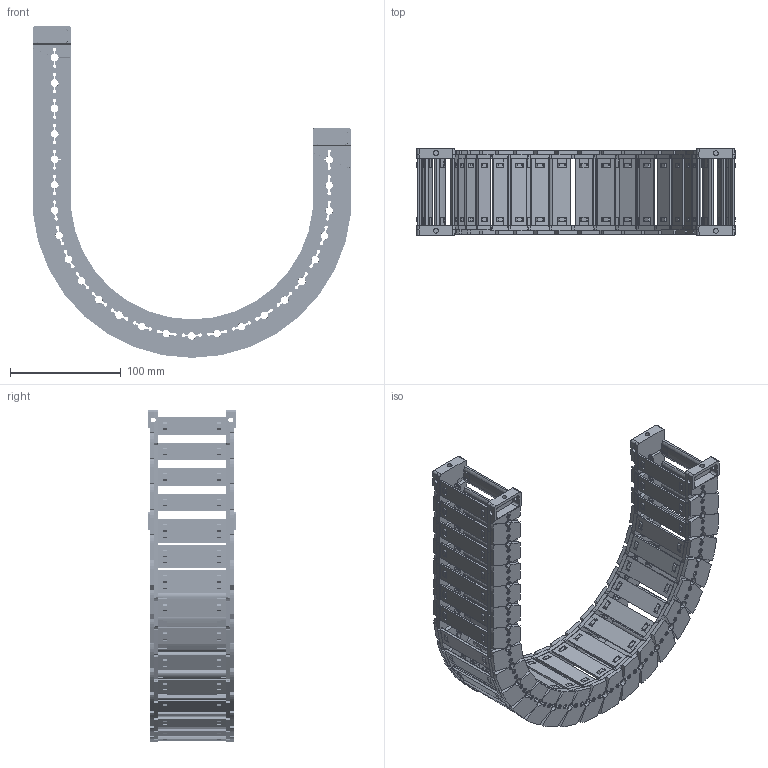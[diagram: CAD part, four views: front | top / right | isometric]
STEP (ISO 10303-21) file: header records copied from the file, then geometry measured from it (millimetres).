
FILE_DESCRIPTION((''),'2;1');
FILE_NAME('JY-28X60-R125_ASM','2026-03-25T20:01:16',('admin'),(''),'CREO PARAMETRIC BY PTC INC, 2021023','CREO PARAMETRIC BY PTC INC, 2021023','');
FILE_SCHEMA(('CONFIG_CONTROL_DESIGN'));
Length unit declared in the file: millimetre
Products named in the file (11): 28XL-L; 25-35XL-YP; 28XL-R; ASM0001_ASM; 28-LTT-A-L; 28-LTT-A-R; 28XL-LTT-A_ASM; 28-LTT-B-L; 28-LTT-B-R; 28XL-LTT-B_ASM; JY-28X60-R125_ASM
Assembly tree (38 placements, depth 3):
  JY-28X60-R125_ASM
    ASM0001_ASM  x24
      28XL-L
      25-35XL-YP
      28XL-R
    28XL-LTT-A_ASM
      28-LTT-A-L
      25-35XL-YP  x2
      28-LTT-A-R
    28XL-LTT-B_ASM
      28-LTT-B-L
      25-35XL-YP  x2
      28-LTT-B-R
Bounding box: 287.57 x 79 x 299.79 mm (x, y, z)
Volume: 422159.5 mm3; surface area: 305762.4 mm2
Topology: 104 solids, 104 shells, 8438 faces, 25084 edges, 16750 vertices
Faces by surface type: plane 5532, cone 1522, cylinder 1210, bspline 174
Entity records: 29143 total; most frequent: CARTESIAN_POINT 9496, ORIENTED_EDGE 4352, DIRECTION 3667, EDGE_CURVE 2176, VERTEX_POINT 1454, VECTOR 1365, LINE 1365, AXIS2_PLACEMENT_3D 1151
